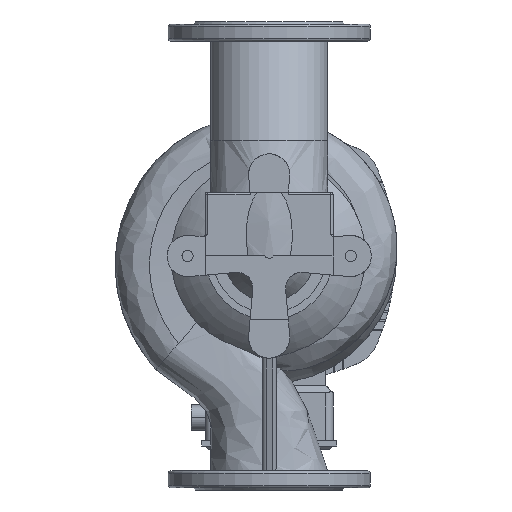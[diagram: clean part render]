
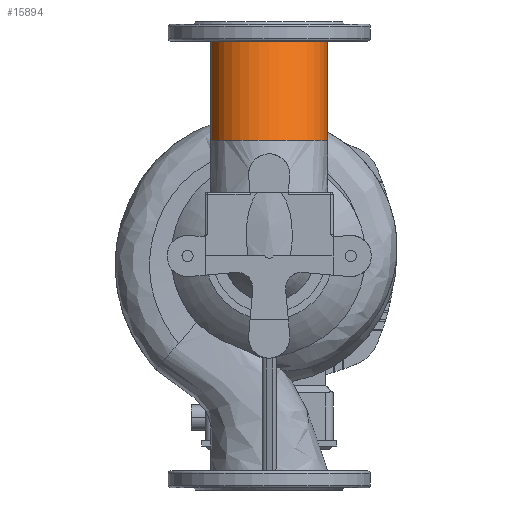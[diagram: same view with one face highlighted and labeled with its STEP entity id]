
A CAD part, front view. The second image highlights one B-rep face of the part: STEP entity #15894.
In plain terms, the highlighted free-form (B-spline) face has degree [3, 1] with [7, 2] control points.
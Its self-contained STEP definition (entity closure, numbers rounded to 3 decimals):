
#1143 = CARTESIAN_POINT ( 'NONE',  ( 82.5, -165., 303. ) ) ;
#1451 = CARTESIAN_POINT ( 'NONE',  ( -82.5, 0., 303. ) ) ;
#1800 = CARTESIAN_POINT ( 'NONE',  ( 82.5, -65.302, 162.96 ) ) ;
#1937 = ORIENTED_EDGE ( 'NONE', *, *, #8273, .F. ) ;
#3039 = AXIS2_PLACEMENT_3D ( 'NONE', #10556, #5767, #27916 ) ;
#3679 = FACE_OUTER_BOUND ( 'NONE', #16196, .T. ) ;
#3826 = CARTESIAN_POINT ( 'NONE',  ( 82.5, 99.698, 162.96 ) ) ;
#5767 = DIRECTION ( 'NONE',  ( 0., 0., -1. ) ) ;
#6366 = CARTESIAN_POINT ( 'NONE',  ( 82.5, 165., 303. ) ) ;
#6527 = AXIS2_PLACEMENT_3D ( 'NONE', #22572, #14926, #22256 ) ;
#6736 = CARTESIAN_POINT ( 'NONE',  ( -82.5, -65.302, 162.96 ) ) ;
#7217 = CARTESIAN_POINT ( 'NONE',  ( -82.5, 0., 303. ) ) ;
#8273 = EDGE_CURVE ( 'NONE', #20614, #15648, #11174, .T. ) ;
#8777 = CARTESIAN_POINT ( 'NONE',  ( 82.5, -65.302, 162.96 ) ) ;
#10041 = EDGE_CURVE ( 'NONE', #20614, #25592, #17190, .T. ) ;
#10556 = CARTESIAN_POINT ( 'NONE',  ( 0., -65.302, 162.96 ) ) ;
#11161 = CARTESIAN_POINT ( 'NONE',  ( -82.5, -65.302, 162.96 ) ) ;
#11174 = CIRCLE ( 'NONE', #3039, 82.5 ) ;
#13380 = CARTESIAN_POINT ( 'NONE',  ( -82.5, -230.302, 162.96 ) ) ;
#13473 = CARTESIAN_POINT ( 'NONE',  ( 82.5, 0., 303. ) ) ;
#13576 = CARTESIAN_POINT ( 'NONE',  ( 82.5, 0., 303. ) ) ;
#13640 = CIRCLE ( 'NONE', #6527, 82.5 ) ;
#13778 = CARTESIAN_POINT ( 'NONE',  ( -82.5, -65.302, 162.96 ) ) ;
#14926 = DIRECTION ( 'NONE',  ( 0., 0., -1. ) ) ;
#15342 = B_SPLINE_CURVE_WITH_KNOTS ( 'NONE', 1,
 ( #13778, #7217 ),
 .UNSPECIFIED., .F., .F.,
 ( 2, 2 ),
 ( 0., 1. ),
 .UNSPECIFIED. ) ;
#15648 = VERTEX_POINT ( 'NONE', #6736 ) ;
#15894 = ADVANCED_FACE ( 'NONE', ( #3679 ), #27328, .F. ) ;
#15925 = CARTESIAN_POINT ( 'NONE',  ( -82.5, 165., 303. ) ) ;
#16085 = CARTESIAN_POINT ( 'NONE',  ( -82.5, 99.698, 162.96 ) ) ;
#16196 = EDGE_LOOP ( 'NONE', ( #1937, #26813, #21875, #24500 ) ) ;
#17190 = B_SPLINE_CURVE_WITH_KNOTS ( 'NONE', 1,
 ( #1800, #13576 ),
 .UNSPECIFIED., .F., .F.,
 ( 2, 2 ),
 ( 0., 1. ),
 .UNSPECIFIED. ) ;
#18485 = CARTESIAN_POINT ( 'NONE',  ( -82.5, -165., 303. ) ) ;
#19771 = CARTESIAN_POINT ( 'NONE',  ( 82.5, -65.302, 162.96 ) ) ;
#20260 = CARTESIAN_POINT ( 'NONE',  ( -82.5, -65.302, 162.96 ) ) ;
#20614 = VERTEX_POINT ( 'NONE', #19771 ) ;
#21875 = ORIENTED_EDGE ( 'NONE', *, *, #25299, .T. ) ;
#22256 = DIRECTION ( 'NONE',  ( -1., 0., 0. ) ) ;
#22572 = CARTESIAN_POINT ( 'NONE',  ( 0., 0., 303. ) ) ;
#22944 = CARTESIAN_POINT ( 'NONE',  ( 82.5, 0., 303. ) ) ;
#23031 = EDGE_CURVE ( 'NONE', #15648, #24914, #15342, .T. ) ;
#24500 = ORIENTED_EDGE ( 'NONE', *, *, #23031, .F. ) ;
#24914 = VERTEX_POINT ( 'NONE', #27883 ) ;
#25299 = EDGE_CURVE ( 'NONE', #25592, #24914, #13640, .T. ) ;
#25592 = VERTEX_POINT ( 'NONE', #13473 ) ;
#26813 = ORIENTED_EDGE ( 'NONE', *, *, #10041, .T. ) ;
#27328 =( BOUNDED_SURFACE ( )  B_SPLINE_SURFACE ( 3, 1, ( 
 ( #20260, #1451 ),
 ( #16085, #15925 ),
 ( #3826, #6366 ),
 ( #8777, #22944 ),
 ( #27601, #1143 ),
 ( #13380, #18485 ),
 ( #11161, #29988 ) ),
 .UNSPECIFIED., .T., .F., .F. ) 
 B_SPLINE_SURFACE_WITH_KNOTS ( ( 4, 3, 4 ),
 ( 2, 2 ),
 ( 0., 0.5, 1. ),
 ( 0., 1. ),
 .UNSPECIFIED. ) 
 GEOMETRIC_REPRESENTATION_ITEM ( )  RATIONAL_B_SPLINE_SURFACE ( (
 ( 1., 1.),
 ( 0.333, 0.333),
 ( 0.333, 0.333),
 ( 1., 1.),
 ( 0.333, 0.333),
 ( 0.333, 0.333),
 ( 1., 1.) ) ) 
 REPRESENTATION_ITEM ( '' )  SURFACE ( )  );
#27601 = CARTESIAN_POINT ( 'NONE',  ( 82.5, -230.302, 162.96 ) ) ;
#27883 = CARTESIAN_POINT ( 'NONE',  ( -82.5, 0., 303. ) ) ;
#27916 = DIRECTION ( 'NONE',  ( -1., 0., 0. ) ) ;
#29988 = CARTESIAN_POINT ( 'NONE',  ( -82.5, 0., 303. ) ) ;
